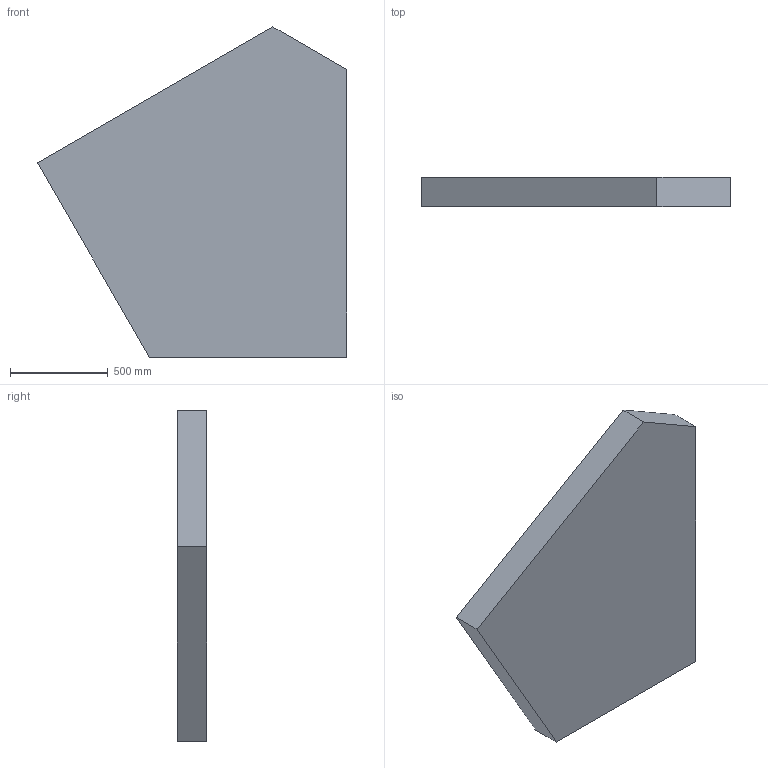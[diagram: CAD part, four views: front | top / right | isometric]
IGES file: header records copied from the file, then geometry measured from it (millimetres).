
Start section:  PTC IGES file: fr_lc_gap_plate.igs
Global section: file name: fr_lc_gap_plate.igs; native system: Pro/ENGINEER by Parametric Technology Corporation; preprocessor: 1999260; author: oshatz; organization: Unknown; date: 000922.101458; units: millimetre
Bounding box: 1579.11 x 150 x 1686.2 mm (x, y, z)
Surface area: 4657065.9 mm2 (no closed solid volume)
Topology: 0 solids, 0 shells, 7 faces, 30 edges, 30 vertices
Faces by surface type: bspline 7
